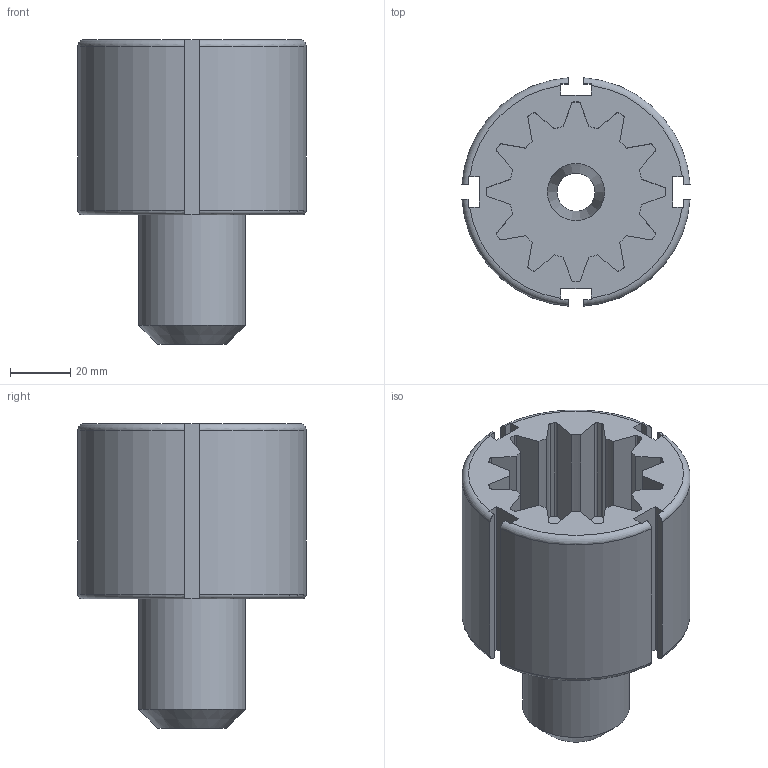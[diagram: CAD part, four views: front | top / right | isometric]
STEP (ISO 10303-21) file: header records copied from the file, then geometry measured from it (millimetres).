
FILE_DESCRIPTION(/* description */ ('Alibre Inc.'),/* implementation_level */ '2;1');
FILE_NAME(/* name */ 'Exercise 8',/* time_stamp */ '2003-12-09T12:30:03-06:00',/* author */ (''),/* organization */ (''),/* preprocessor_version */ 'ST-DEVELOPER v9',/* originating_system */ 'Alibre',/* authorisation */ '');
FILE_SCHEMA (('ALIBRE_SCHEMA','CONFIG_CONTROL_DESIGN'));
Length unit declared in the file: centimetre
Products named in the file (1): ID_1
Bounding box: 76.03 x 76.03 x 101.6 mm (x, y, z)
Volume: 185879.3 mm3; surface area: 48103.2 mm2
Topology: 1 solids, 1 shells, 125 faces, 357 edges, 237 vertices
Faces by surface type: plane 69, cylinder 44, torus 10, cone 2
Full cylindrical faces by diameter (mm): 12.7 x1, 19.05 x1, 35.56 x1, 55.88 x1
Entity records: 7654 total; most frequent: CARTESIAN_POINT 1588, DIRECTION 755, ORIENTED_EDGE 694, CONSTRAINTPAIRUV 484, REFERENCEDEPENDENTUV 401, VECTOR 374, EDGE_CURVE 347, LINE 296
